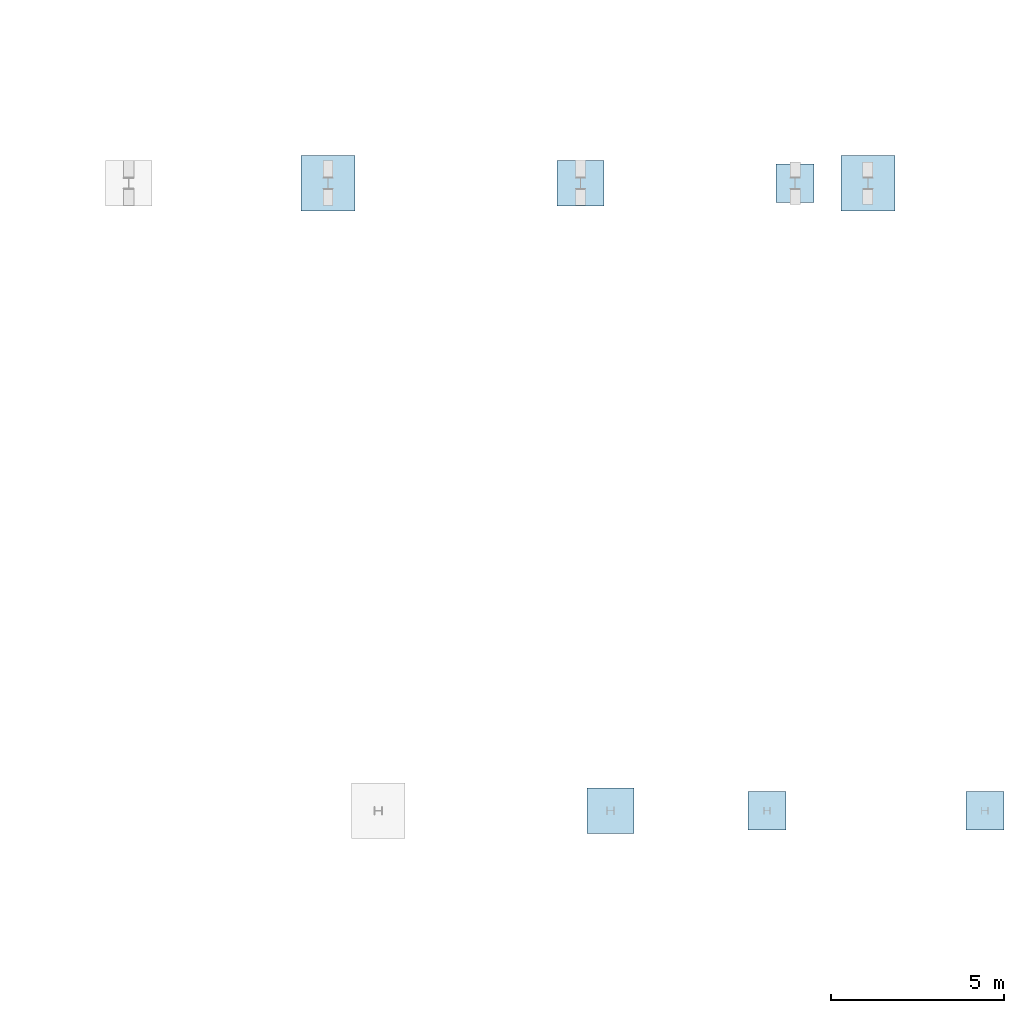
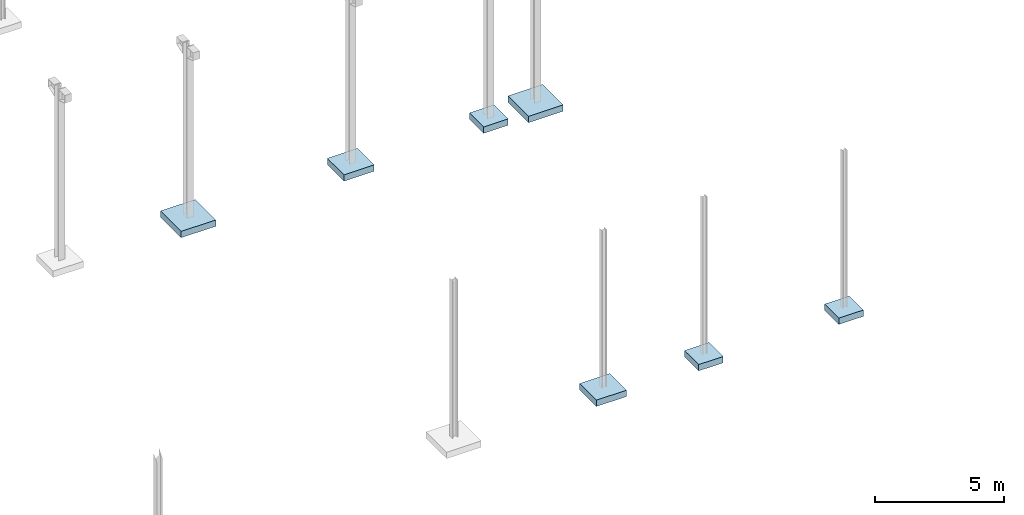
# One storey, part 12 of 59: 7 footings.
"""IFC2X3 building model written with IfcOpenShell, lengths in metres."""

from ifc_helpers import new_model, entity, si_unit, converted_unit, derived_unit, frame, frame_2d, origin, origin_with_axes, place, context, subcontext, project, spatial, rectangle, extrude, material, element, save


model = new_model("IFC2X3")

# Units and contexts
model_context = context("Model", 3, precision=1e-05, world=origin())
body_context = subcontext(model_context, "Body", "Model", "MODEL_VIEW")
ifc_project = project(units=[si_unit("LENGTHUNIT", "METRE"), si_unit("AREAUNIT", "SQUARE_METRE"), si_unit("VOLUMEUNIT", "CUBIC_METRE"), si_unit("MASSUNIT", "GRAM", prefix="KILO"), converted_unit("PLANEANGLEUNIT", "DEGREE", entity("IfcPlaneAngleMeasure", 0.0174532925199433), si_unit("PLANEANGLEUNIT", "RADIAN"), dimensions=[0, 0, 0, 0, 0, 0, 0]), derived_unit("THERMALTRANSMITTANCEUNIT", [(si_unit("POWERUNIT", "WATT"), 1), (si_unit("THERMODYNAMICTEMPERATUREUNIT", "KELVIN"), -1), (si_unit("LENGTHUNIT", "METRE"), -2)]), derived_unit("VOLUMETRICFLOWRATEUNIT", [(si_unit("LENGTHUNIT", "METRE"), 3), (converted_unit("TIMEUNIT", "hour", entity("IfcTimeMeasure", 3600.0), si_unit("TIMEUNIT", "SECOND"), dimensions=[0, 0, 1, 0, 0, 0, 0]), -1), (si_unit("LENGTHUNIT", "METRE"), -1)])], contexts=[model_context])

# Site, building, storey
site_placement = place(None, origin())
site = spatial("IfcSite", under=ifc_project, at=site_placement, Name="TWP_Speiseverteilzentrum SBW VZ II", CompositionType="ELEMENT")
building_placement = place(site_placement, origin())
building = spatial("IfcBuilding", under=site, at=building_placement, Name="Speiseverteilzentrum SBW VZ II", CompositionType="ELEMENT")
storey_placement = place(building_placement, frame((0.0, 0.0, 1.7307)))
storey = spatial("IfcBuildingStorey", under=building, at=storey_placement, Name="EG_Produktion_FFB", CompositionType="ELEMENT", Elevation=1.7307)

# Footings
ifc_material_1 = material(Name="Stahlbeton")
footing_1_placement = place(storey_placement, frame((99.3503393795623, 69.6001031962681, -2.25)))
element("IfcFooting", 1, at=footing_1_placement, inside=storey, material=ifc_material_1, Name="Stb.-Einzelfundament", ObjectType="COLUMN_FOUNDATION", PredefinedType="USERDEFINED", context=body_context, shape_type="SweptSolid", body=[
    extrude(rectangle(XDim=1.55, YDim=1.6, at=frame_2d((0.775, 0.8), x_axis=(1.0, 0.0))), origin_with_axes(), (0.0, 0.0, 1.0), 0.3),
])
ifc_material_2 = material(Name="Stahlbeton")
footing_2_placement = place(storey_placement, frame((106.735000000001, 69.7501031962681, -2.25)))
element("IfcFooting", 2, at=footing_2_placement, inside=storey, material=ifc_material_2, Name="Stb.-Einzelfundament", ObjectType="COLUMN_FOUNDATION", PredefinedType="USERDEFINED", context=body_context, shape_type="SweptSolid", body=[
    extrude(rectangle(XDim=1.35, YDim=1.3, at=frame_2d((0.675, 0.65), x_axis=(1.0, 0.0))), origin_with_axes(), (0.0, 0.0, 1.0), 0.3),
])
ifc_material_3 = material(Name="Stahlbeton")
footing_3_placement = place(storey_placement, frame((114.925, 69.6001031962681, -2.25)))
element("IfcFooting", 3, at=footing_3_placement, inside=storey, material=ifc_material_3, Name="Stb.-Einzelfundament", ObjectType="COLUMN_FOUNDATION", PredefinedType="USERDEFINED", context=body_context, shape_type="SweptSolid", body=[
    extrude(rectangle(XDim=1.55, YDim=1.6, at=frame_2d((0.775, 0.8), x_axis=(1.0, 0.0))), origin_with_axes(), (0.0, 0.0, 1.0), 0.3),
])
ifc_material_4 = material(Name="Stahlbeton")
footing_4_placement = place(storey_placement, frame((118.525, 51.7500000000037, -2.25)))
element("IfcFooting", 4, at=footing_4_placement, inside=storey, material=ifc_material_4, Name="Stb.-Einzelfundament", ObjectType="COLUMN_FOUNDATION", PredefinedType="USERDEFINED", context=body_context, shape_type="SweptSolid", body=[
    extrude(rectangle(XDim=1.1, YDim=1.1, at=frame_2d((0.55, 0.55), x_axis=(1.0, 0.0))), origin_with_axes(), (0.0, 0.0, 1.0), 0.3),
])
ifc_material_5 = material(Name="Stahlbeton")
footing_5_placement = place(storey_placement, frame((112.24, 51.7500000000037, -2.25)))
element("IfcFooting", 5, at=footing_5_placement, inside=storey, material=ifc_material_5, Name="Stb.-Einzelfundament", ObjectType="COLUMN_FOUNDATION", PredefinedType="USERDEFINED", context=body_context, shape_type="SweptSolid", body=[
    extrude(rectangle(XDim=1.1, YDim=1.1, at=frame_2d((0.55, 0.55), x_axis=(1.0, 0.0))), origin_with_axes(), (0.0, 0.0, 1.0), 0.3),
])
ifc_material_6 = material(Name="Stahlbeton")
footing_6_placement = place(storey_placement, frame((107.6, 51.6500000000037, -2.25)))
element("IfcFooting", 6, at=footing_6_placement, inside=storey, material=ifc_material_6, Name="Stb.-Einzelfundament", ObjectType="COLUMN_FOUNDATION", PredefinedType="USERDEFINED", context=body_context, shape_type="SweptSolid", body=[
    extrude(rectangle(XDim=1.35, YDim=1.3, at=frame_2d((0.675, 0.65), x_axis=(1.0, 0.0))), origin_with_axes(), (0.0, 0.0, 1.0), 0.3),
])
ifc_material_7 = material(Name="Stahlbeton")
footing_7_placement = place(storey_placement, frame((113.05, 69.8501031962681, -2.25)))
element("IfcFooting", 7, at=footing_7_placement, inside=storey, material=ifc_material_7, Name="Stb.-Einzelfundament", ObjectType="COLUMN_FOUNDATION", PredefinedType="USERDEFINED", context=body_context, shape_type="SweptSolid", body=[
    extrude(rectangle(XDim=1.1, YDim=1.1, at=frame_2d((0.55, 0.55), x_axis=(1.0, 0.0))), origin_with_axes(), (0.0, 0.0, 1.0), 0.3),
])

save(model, "model.ifc")
